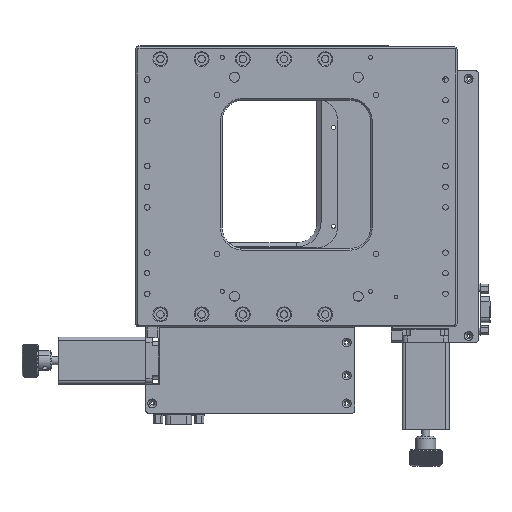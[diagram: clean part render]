
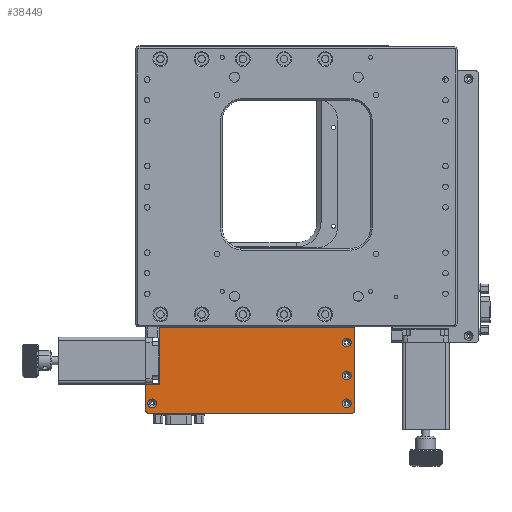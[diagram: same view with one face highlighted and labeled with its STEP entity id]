
A CAD part, top view. The second image highlights one B-rep face of the part: STEP entity #38449.
In plain terms, the highlighted planar face has unit normal (0, 0, 1).
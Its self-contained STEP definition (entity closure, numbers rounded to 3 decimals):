
#39 = EDGE_CURVE ( 'NONE', #33036, #22335, #19020, .T. ) ;
#123 = VECTOR ( 'NONE', #5107, 1000. ) ;
#167 = AXIS2_PLACEMENT_3D ( 'NONE', #58641, #8602, #52977 ) ;
#299 = ORIENTED_EDGE ( 'NONE', *, *, #32833, .F. ) ;
#381 = CARTESIAN_POINT ( 'NONE',  ( 49.956, -116.156, 132.669 ) ) ;
#812 = CARTESIAN_POINT ( 'NONE',  ( -68.044, -153.156, 132.669 ) ) ;
#1018 = EDGE_CURVE ( 'NONE', #34760, #29516, #23610, .T. ) ;
#1362 = CARTESIAN_POINT ( 'NONE',  ( -70.744, -153.156, 132.669 ) ) ;
#1599 = CIRCLE ( 'NONE', #39064, 2.7 ) ;
#2036 = ORIENTED_EDGE ( 'NONE', *, *, #43272, .F. ) ;
#3368 = ORIENTED_EDGE ( 'NONE', *, *, #20075, .F. ) ;
#3440 = LINE ( 'NONE', #44111, #51642 ) ;
#3718 = EDGE_CURVE ( 'NONE', #5257, #12011, #1599, .T. ) ;
#4382 = DIRECTION ( 'NONE',  ( 1., 0., 0. ) ) ;
#5107 = DIRECTION ( 'NONE',  ( 1., 0., 0. ) ) ;
#5257 = VERTEX_POINT ( 'NONE', #56791 ) ;
#5274 = LINE ( 'NONE', #33705, #56633 ) ;
#5776 = FACE_BOUND ( 'NONE', #21041, .T. ) ;
#5989 = EDGE_CURVE ( 'NONE', #23058, #44637, #5274, .T. ) ;
#6701 = EDGE_CURVE ( 'NONE', #50595, #11337, #24659, .T. ) ;
#6767 = DIRECTION ( 'NONE',  ( -1., 0., 0. ) ) ;
#6894 = VERTEX_POINT ( 'NONE', #63759 ) ;
#7117 = CARTESIAN_POINT ( 'NONE',  ( -68.044, -153.156, 132.669 ) ) ;
#7630 = VECTOR ( 'NONE', #25841, 1000. ) ;
#8602 = DIRECTION ( 'NONE',  ( 0., 0., 1. ) ) ;
#8823 = EDGE_LOOP ( 'NONE', ( #57793, #10275 ) ) ;
#9104 = AXIS2_PLACEMENT_3D ( 'NONE', #812, #16273, #35862 ) ;
#9292 = ORIENTED_EDGE ( 'NONE', *, *, #26694, .F. ) ;
#9952 = CARTESIAN_POINT ( 'NONE',  ( 52.656, -153.156, 132.669 ) ) ;
#10275 = ORIENTED_EDGE ( 'NONE', *, *, #39786, .F. ) ;
#10530 = AXIS2_PLACEMENT_3D ( 'NONE', #20903, #40684, #55668 ) ;
#11337 = VERTEX_POINT ( 'NONE', #61748 ) ;
#11940 = VECTOR ( 'NONE', #42385, 1000. ) ;
#12011 = VERTEX_POINT ( 'NONE', #14261 ) ;
#12321 = VERTEX_POINT ( 'NONE', #1362 ) ;
#12608 = EDGE_LOOP ( 'NONE', ( #2036, #40839 ) ) ;
#13025 = CARTESIAN_POINT ( 'NONE',  ( -64.044, -159.156, 132.669 ) ) ;
#13234 = VERTEX_POINT ( 'NONE', #55581 ) ;
#13947 = DIRECTION ( 'NONE',  ( 0., 0., 1. ) ) ;
#14261 = CARTESIAN_POINT ( 'NONE',  ( 47.256, -116.156, 132.669 ) ) ;
#14772 = DIRECTION ( 'NONE',  ( 0., 0., 1. ) ) ;
#14787 = EDGE_CURVE ( 'NONE', #12011, #5257, #31306, .T. ) ;
#14926 = LINE ( 'NONE', #25349, #123 ) ;
#15261 = CARTESIAN_POINT ( 'NONE',  ( -4.419, -133.102, 132.669 ) ) ;
#15419 = CARTESIAN_POINT ( 'NONE',  ( 47.256, -136.156, 132.669 ) ) ;
#16273 = DIRECTION ( 'NONE',  ( 0., 0., 1. ) ) ;
#16746 = FACE_OUTER_BOUND ( 'NONE', #41887, .T. ) ;
#17021 = CARTESIAN_POINT ( 'NONE',  ( 47.256, -153.156, 132.669 ) ) ;
#18924 = CIRCLE ( 'NONE', #60264, 2.7 ) ;
#19020 = CIRCLE ( 'NONE', #10530, 2.7 ) ;
#19096 = EDGE_CURVE ( 'NONE', #12321, #6894, #64552, .T. ) ;
#20031 = CARTESIAN_POINT ( 'NONE',  ( 52.956, -159.156, 132.669 ) ) ;
#20075 = EDGE_CURVE ( 'NONE', #29516, #34760, #44224, .T. ) ;
#20611 = FACE_BOUND ( 'NONE', #8823, .T. ) ;
#20903 = CARTESIAN_POINT ( 'NONE',  ( 49.956, -153.156, 132.669 ) ) ;
#21041 = EDGE_LOOP ( 'NONE', ( #56744, #3368 ) ) ;
#22167 = DIRECTION ( 'NONE',  ( 1., 0., 0. ) ) ;
#22335 = VERTEX_POINT ( 'NONE', #17021 ) ;
#23058 = VERTEX_POINT ( 'NONE', #37821 ) ;
#23610 = CIRCLE ( 'NONE', #31445, 2.7 ) ;
#23721 = VERTEX_POINT ( 'NONE', #29869 ) ;
#23734 = DIRECTION ( 'NONE',  ( 0., 0., 1. ) ) ;
#23807 = CARTESIAN_POINT ( 'NONE',  ( 49.956, -136.156, 132.669 ) ) ;
#24012 = ORIENTED_EDGE ( 'NONE', *, *, #14787, .F. ) ;
#24310 = DIRECTION ( 'NONE',  ( 0., 1., 0. ) ) ;
#24487 = EDGE_CURVE ( 'NONE', #50595, #23721, #59440, .T. ) ;
#24659 = CIRCLE ( 'NONE', #35090, 2. ) ;
#25336 = EDGE_CURVE ( 'NONE', #44637, #11337, #64052, .T. ) ;
#25349 = CARTESIAN_POINT ( 'NONE',  ( -72.044, -141.656, 132.669 ) ) ;
#25391 = CIRCLE ( 'NONE', #9104, 2.7 ) ;
#25841 = DIRECTION ( 'NONE',  ( 0., 1., 0. ) ) ;
#26694 = EDGE_CURVE ( 'NONE', #37141, #50339, #14926, .T. ) ;
#27035 = ORIENTED_EDGE ( 'NONE', *, *, #3718, .F. ) ;
#27530 = ORIENTED_EDGE ( 'NONE', *, *, #25336, .F. ) ;
#28734 = CARTESIAN_POINT ( 'NONE',  ( 49.956, -116.156, 132.669 ) ) ;
#29260 = DIRECTION ( 'NONE',  ( 1., 0., 0. ) ) ;
#29499 = DIRECTION ( 'NONE',  ( 1., 0., 0. ) ) ;
#29516 = VERTEX_POINT ( 'NONE', #15419 ) ;
#29869 = CARTESIAN_POINT ( 'NONE',  ( -70.044, -159.156, 132.669 ) ) ;
#31306 = CIRCLE ( 'NONE', #35741, 2.7 ) ;
#31445 = AXIS2_PLACEMENT_3D ( 'NONE', #43773, #23734, #4382 ) ;
#31997 = AXIS2_PLACEMENT_3D ( 'NONE', #23807, #33856, #29499 ) ;
#32392 = AXIS2_PLACEMENT_3D ( 'NONE', #7117, #41980, #22167 ) ;
#32572 = ORIENTED_EDGE ( 'NONE', *, *, #24487, .F. ) ;
#32833 = EDGE_CURVE ( 'NONE', #50339, #23058, #3440, .T. ) ;
#33036 = VERTEX_POINT ( 'NONE', #9952 ) ;
#33115 = CARTESIAN_POINT ( 'NONE',  ( -63.544, -141.656, 132.669 ) ) ;
#33161 = ORIENTED_EDGE ( 'NONE', *, *, #5989, .F. ) ;
#33338 = LINE ( 'NONE', #60192, #7630 ) ;
#33705 = CARTESIAN_POINT ( 'NONE',  ( -63.544, -107.158, 132.669 ) ) ;
#33856 = DIRECTION ( 'NONE',  ( 0., 0., 1. ) ) ;
#34760 = VERTEX_POINT ( 'NONE', #51669 ) ;
#35090 = AXIS2_PLACEMENT_3D ( 'NONE', #51146, #56145, #6767 ) ;
#35741 = AXIS2_PLACEMENT_3D ( 'NONE', #28734, #13947, #62663 ) ;
#35862 = DIRECTION ( 'NONE',  ( 1., 0., 0. ) ) ;
#36168 = CARTESIAN_POINT ( 'NONE',  ( 54.956, -159.156, 132.669 ) ) ;
#36861 = AXIS2_PLACEMENT_3D ( 'NONE', #15261, #60222, #39629 ) ;
#37141 = VERTEX_POINT ( 'NONE', #48844 ) ;
#37821 = CARTESIAN_POINT ( 'NONE',  ( -63.544, -107.158, 132.669 ) ) ;
#38449 = ADVANCED_FACE ( 'NONE', ( #43199, #20611, #5776, #42402, #16746 ), #55428, .F. ) ;
#38691 = CARTESIAN_POINT ( 'NONE',  ( 54.956, -107.158, 132.669 ) ) ;
#38925 = DIRECTION ( 'NONE',  ( 1., 0., 0. ) ) ;
#39064 = AXIS2_PLACEMENT_3D ( 'NONE', #381, #14772, #54736 ) ;
#39629 = DIRECTION ( 'NONE',  ( -1., 0., 0. ) ) ;
#39786 = EDGE_CURVE ( 'NONE', #22335, #33036, #18924, .T. ) ;
#40684 = DIRECTION ( 'NONE',  ( 0., 0., 1. ) ) ;
#40839 = ORIENTED_EDGE ( 'NONE', *, *, #19096, .F. ) ;
#41887 = EDGE_LOOP ( 'NONE', ( #44716, #46612, #32572, #56389, #27530, #33161, #299, #9292 ) ) ;
#41980 = DIRECTION ( 'NONE',  ( 0., 0., 1. ) ) ;
#42385 = DIRECTION ( 'NONE',  ( -1., 0., 0. ) ) ;
#42402 = FACE_BOUND ( 'NONE', #45255, .T. ) ;
#43199 = FACE_BOUND ( 'NONE', #12608, .T. ) ;
#43272 = EDGE_CURVE ( 'NONE', #6894, #12321, #25391, .T. ) ;
#43773 = CARTESIAN_POINT ( 'NONE',  ( 49.956, -136.156, 132.669 ) ) ;
#44111 = CARTESIAN_POINT ( 'NONE',  ( -63.544, -141.656, 132.669 ) ) ;
#44150 = CIRCLE ( 'NONE', #167, 2. ) ;
#44224 = CIRCLE ( 'NONE', #31997, 2.7 ) ;
#44637 = VERTEX_POINT ( 'NONE', #38691 ) ;
#44716 = ORIENTED_EDGE ( 'NONE', *, *, #56964, .F. ) ;
#45255 = EDGE_LOOP ( 'NONE', ( #27035, #24012 ) ) ;
#46612 = ORIENTED_EDGE ( 'NONE', *, *, #50831, .T. ) ;
#47672 = VECTOR ( 'NONE', #51108, 1000. ) ;
#48844 = CARTESIAN_POINT ( 'NONE',  ( -72.044, -141.656, 132.669 ) ) ;
#49002 = CARTESIAN_POINT ( 'NONE',  ( 49.956, -153.156, 132.669 ) ) ;
#50339 = VERTEX_POINT ( 'NONE', #33115 ) ;
#50595 = VERTEX_POINT ( 'NONE', #20031 ) ;
#50831 = EDGE_CURVE ( 'NONE', #13234, #23721, #44150, .T. ) ;
#51108 = DIRECTION ( 'NONE',  ( 0., -1., 0. ) ) ;
#51146 = CARTESIAN_POINT ( 'NONE',  ( 52.956, -157.156, 132.669 ) ) ;
#51642 = VECTOR ( 'NONE', #24310, 1000. ) ;
#51669 = CARTESIAN_POINT ( 'NONE',  ( 52.656, -136.156, 132.669 ) ) ;
#52977 = DIRECTION ( 'NONE',  ( -1., 0., 0. ) ) ;
#53999 = DIRECTION ( 'NONE',  ( 0., 0., 1. ) ) ;
#54736 = DIRECTION ( 'NONE',  ( 1., 0., 0. ) ) ;
#55428 = PLANE ( 'NONE',  #36861 ) ;
#55581 = CARTESIAN_POINT ( 'NONE',  ( -72.044, -157.156, 132.669 ) ) ;
#55668 = DIRECTION ( 'NONE',  ( 1., 0., 0. ) ) ;
#56145 = DIRECTION ( 'NONE',  ( 0., 0., 1. ) ) ;
#56389 = ORIENTED_EDGE ( 'NONE', *, *, #6701, .T. ) ;
#56633 = VECTOR ( 'NONE', #38925, 1000. ) ;
#56744 = ORIENTED_EDGE ( 'NONE', *, *, #1018, .F. ) ;
#56791 = CARTESIAN_POINT ( 'NONE',  ( 52.656, -116.156, 132.669 ) ) ;
#56964 = EDGE_CURVE ( 'NONE', #13234, #37141, #33338, .T. ) ;
#57793 = ORIENTED_EDGE ( 'NONE', *, *, #39, .F. ) ;
#58641 = CARTESIAN_POINT ( 'NONE',  ( -70.044, -157.156, 132.669 ) ) ;
#59440 = LINE ( 'NONE', #13025, #11940 ) ;
#60192 = CARTESIAN_POINT ( 'NONE',  ( -72.044, -159.156, 132.669 ) ) ;
#60222 = DIRECTION ( 'NONE',  ( 0., 0., -1. ) ) ;
#60264 = AXIS2_PLACEMENT_3D ( 'NONE', #49002, #53999, #29260 ) ;
#61748 = CARTESIAN_POINT ( 'NONE',  ( 54.956, -157.156, 132.669 ) ) ;
#62663 = DIRECTION ( 'NONE',  ( 1., 0., 0. ) ) ;
#63759 = CARTESIAN_POINT ( 'NONE',  ( -65.344, -153.156, 132.669 ) ) ;
#64052 = LINE ( 'NONE', #36168, #47672 ) ;
#64552 = CIRCLE ( 'NONE', #32392, 2.7 ) ;
